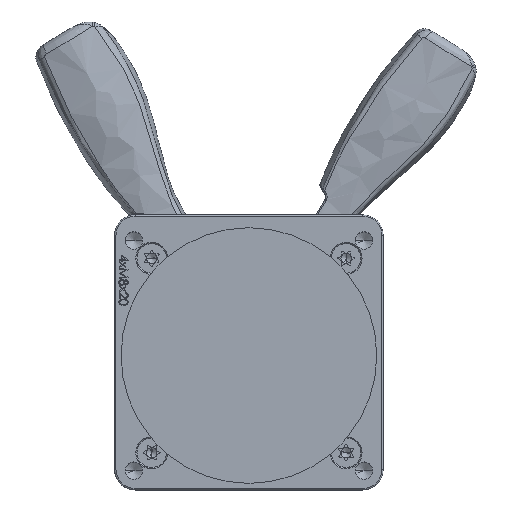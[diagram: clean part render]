
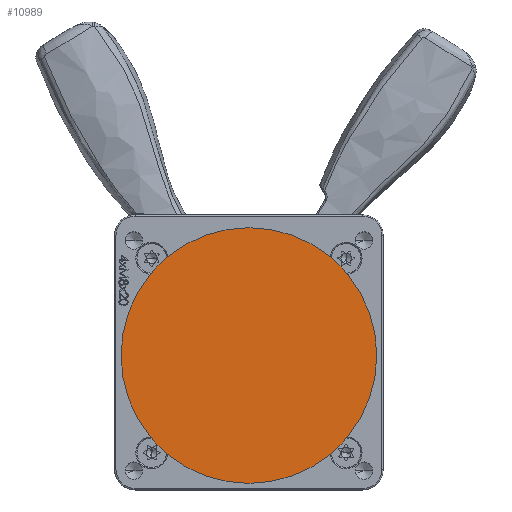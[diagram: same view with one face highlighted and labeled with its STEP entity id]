
A CAD part, top view. The second image highlights one B-rep face of the part: STEP entity #10989.
In plain terms, the highlighted planar face has unit normal (0, 0, 1).
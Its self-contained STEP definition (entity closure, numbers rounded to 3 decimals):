
#400 = VERTEX_POINT ( 'NONE', #26278 ) ;
#799 = AXIS2_PLACEMENT_3D ( 'NONE', #33705, #11502, #37400 ) ;
#1084 = DIRECTION ( 'NONE',  ( 1., 0., 0. ) ) ;
#1366 = EDGE_CURVE ( 'NONE', #32365, #34684, #14031, .T. ) ;
#3453 = DIRECTION ( 'NONE',  ( 1., 0., 0. ) ) ;
#4000 = EDGE_CURVE ( 'NONE', #34684, #35268, #19694, .T. ) ;
#5522 = ORIENTED_EDGE ( 'NONE', *, *, #19128, .T. ) ;
#5914 = DIRECTION ( 'NONE',  ( 0., 0., 1. ) ) ;
#6160 = AXIS2_PLACEMENT_3D ( 'NONE', #10506, #17299, #3453 ) ;
#6252 = VERTEX_POINT ( 'NONE', #45694 ) ;
#10156 = AXIS2_PLACEMENT_3D ( 'NONE', #45297, #23198, #1084 ) ;
#10217 = AXIS2_PLACEMENT_3D ( 'NONE', #21787, #47581, #25500 ) ;
#10365 = CARTESIAN_POINT ( 'NONE',  ( -38.602, -31.779, 42.9 ) ) ;
#10506 = CARTESIAN_POINT ( 'NONE',  ( 0., 0., 42.9 ) ) ;
#10958 = ORIENTED_EDGE ( 'NONE', *, *, #30816, .T. ) ;
#10989 = ADVANCED_FACE ( 'NONE', ( #23880 ), #14191, .T. ) ;
#11116 = CIRCLE ( 'NONE', #46197, 50. ) ;
#11502 = DIRECTION ( 'NONE',  ( 0., 0., 1. ) ) ;
#13568 = CARTESIAN_POINT ( 'NONE',  ( 38.602, -31.779, 42.9 ) ) ;
#14031 = CIRCLE ( 'NONE', #6160, 50. ) ;
#14191 = PLANE ( 'NONE',  #17825 ) ;
#14199 = VERTEX_POINT ( 'NONE', #13568 ) ;
#14993 = EDGE_CURVE ( 'NONE', #35268, #20154, #44029, .T. ) ;
#15151 = DIRECTION ( 'NONE',  ( 0., 0., 1. ) ) ;
#15639 = EDGE_CURVE ( 'NONE', #20154, #33772, #34266, .T. ) ;
#16137 = ORIENTED_EDGE ( 'NONE', *, *, #19611, .T. ) ;
#16264 = AXIS2_PLACEMENT_3D ( 'NONE', #18374, #44206, #22092 ) ;
#17299 = DIRECTION ( 'NONE',  ( 0., 0., 1. ) ) ;
#17825 = AXIS2_PLACEMENT_3D ( 'NONE', #36413, #40104, #17940 ) ;
#17940 = DIRECTION ( 'NONE',  ( 1., 0., 0. ) ) ;
#18374 = CARTESIAN_POINT ( 'NONE',  ( 0., 0., 42.9 ) ) ;
#19067 = ORIENTED_EDGE ( 'NONE', *, *, #1366, .T. ) ;
#19128 = EDGE_CURVE ( 'NONE', #14199, #29316, #41493, .T. ) ;
#19457 = AXIS2_PLACEMENT_3D ( 'NONE', #37324, #15151, #41032 ) ;
#19611 = EDGE_CURVE ( 'NONE', #33772, #400, #39133, .T. ) ;
#19694 = CIRCLE ( 'NONE', #35357, 50. ) ;
#19910 = CARTESIAN_POINT ( 'NONE',  ( 0., 0., 42.9 ) ) ;
#20154 = VERTEX_POINT ( 'NONE', #10365 ) ;
#20928 = DIRECTION ( 'NONE',  ( 0., 0., 1. ) ) ;
#21089 = EDGE_LOOP ( 'NONE', ( #37387, #19067, #25920, #29772, #32980, #16137, #40515, #5522, #10958 ) ) ;
#21787 = CARTESIAN_POINT ( 'NONE',  ( 0., 0., 42.9 ) ) ;
#21854 = DIRECTION ( 'NONE',  ( 0., 0., 1. ) ) ;
#22092 = DIRECTION ( 'NONE',  ( 1., 0., 0. ) ) ;
#23198 = DIRECTION ( 'NONE',  ( 0., 0., 1. ) ) ;
#23880 = FACE_OUTER_BOUND ( 'NONE', #21089, .T. ) ;
#25500 = DIRECTION ( 'NONE',  ( 1., 0., 0. ) ) ;
#25920 = ORIENTED_EDGE ( 'NONE', *, *, #4000, .T. ) ;
#26278 = CARTESIAN_POINT ( 'NONE',  ( 31.779, -38.602, 42.9 ) ) ;
#26688 = AXIS2_PLACEMENT_3D ( 'NONE', #43044, #20928, #46750 ) ;
#27770 = CARTESIAN_POINT ( 'NONE',  ( 31.779, 38.602, 42.9 ) ) ;
#27906 = CARTESIAN_POINT ( 'NONE',  ( -31.779, 38.602, 42.9 ) ) ;
#28037 = CARTESIAN_POINT ( 'NONE',  ( 0., 0., 42.9 ) ) ;
#28568 = CIRCLE ( 'NONE', #16264, 50. ) ;
#29316 = VERTEX_POINT ( 'NONE', #40653 ) ;
#29660 = EDGE_CURVE ( 'NONE', #6252, #32365, #30392, .T. ) ;
#29772 = ORIENTED_EDGE ( 'NONE', *, *, #14993, .T. ) ;
#30392 = CIRCLE ( 'NONE', #799, 50. ) ;
#30816 = EDGE_CURVE ( 'NONE', #29316, #6252, #28568, .T. ) ;
#30827 = CARTESIAN_POINT ( 'NONE',  ( -31.779, -38.602, 42.9 ) ) ;
#31781 = DIRECTION ( 'NONE',  ( 1., 0., 0. ) ) ;
#32365 = VERTEX_POINT ( 'NONE', #27770 ) ;
#32980 = ORIENTED_EDGE ( 'NONE', *, *, #15639, .T. ) ;
#33705 = CARTESIAN_POINT ( 'NONE',  ( 0., 0., 42.9 ) ) ;
#33722 = CARTESIAN_POINT ( 'NONE',  ( -38.602, 31.779, 42.9 ) ) ;
#33772 = VERTEX_POINT ( 'NONE', #30827 ) ;
#34266 = CIRCLE ( 'NONE', #10156, 50. ) ;
#34684 = VERTEX_POINT ( 'NONE', #27906 ) ;
#35268 = VERTEX_POINT ( 'NONE', #33722 ) ;
#35357 = AXIS2_PLACEMENT_3D ( 'NONE', #19910, #21854, #44093 ) ;
#36413 = CARTESIAN_POINT ( 'NONE',  ( 0., 0., 42.9 ) ) ;
#37324 = CARTESIAN_POINT ( 'NONE',  ( 0., 0., 42.9 ) ) ;
#37387 = ORIENTED_EDGE ( 'NONE', *, *, #29660, .T. ) ;
#37400 = DIRECTION ( 'NONE',  ( 1., 0., 0. ) ) ;
#39133 = CIRCLE ( 'NONE', #26688, 50. ) ;
#40104 = DIRECTION ( 'NONE',  ( 0., 0., 1. ) ) ;
#40515 = ORIENTED_EDGE ( 'NONE', *, *, #42313, .T. ) ;
#40653 = CARTESIAN_POINT ( 'NONE',  ( 50., 0., 42.9 ) ) ;
#41032 = DIRECTION ( 'NONE',  ( 1., 0., 0. ) ) ;
#41493 = CIRCLE ( 'NONE', #10217, 50. ) ;
#42313 = EDGE_CURVE ( 'NONE', #400, #14199, #11116, .T. ) ;
#43044 = CARTESIAN_POINT ( 'NONE',  ( 0., 0., 42.9 ) ) ;
#44029 = CIRCLE ( 'NONE', #19457, 50. ) ;
#44093 = DIRECTION ( 'NONE',  ( 1., 0., 0. ) ) ;
#44206 = DIRECTION ( 'NONE',  ( 0., 0., 1. ) ) ;
#45297 = CARTESIAN_POINT ( 'NONE',  ( 0., 0., 42.9 ) ) ;
#45694 = CARTESIAN_POINT ( 'NONE',  ( 38.602, 31.779, 42.9 ) ) ;
#46197 = AXIS2_PLACEMENT_3D ( 'NONE', #28037, #5914, #31781 ) ;
#46750 = DIRECTION ( 'NONE',  ( 1., 0., 0. ) ) ;
#47581 = DIRECTION ( 'NONE',  ( 0., 0., 1. ) ) ;
